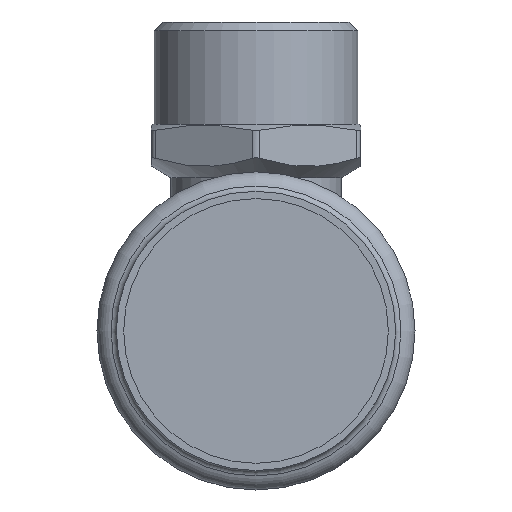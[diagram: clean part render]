
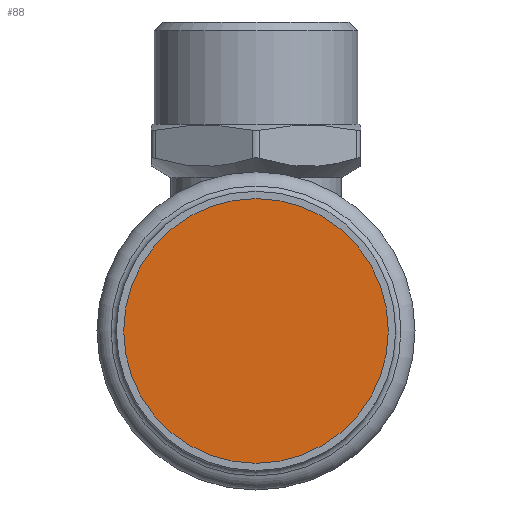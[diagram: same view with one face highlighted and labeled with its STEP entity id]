
A CAD part, front view. The second image highlights one B-rep face of the part: STEP entity #88.
In plain terms, the highlighted planar face has unit normal (0, -1, 0).
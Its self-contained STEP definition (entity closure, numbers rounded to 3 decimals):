
#88=ADVANCED_FACE('',(#381),#383,.T.);
#381=FACE_BOUND('',#382,.T.);
#382=EDGE_LOOP('',(#519));
#383=PLANE('',#384);
#384=AXIS2_PLACEMENT_3D('',#385,#386,#387);
#385=CARTESIAN_POINT('',(0.,-67.792,0.));
#386=DIRECTION('',(0.,-1.,0.));
#387=DIRECTION('',(0.,0.,-1.));
#519=ORIENTED_EDGE('',*,*,#582,.T.);
#582=EDGE_CURVE('',#694,#694,#695,.F.);
#694=VERTEX_POINT('',#2055);
#695=CIRCLE('',#2056,27.2);
#2055=CARTESIAN_POINT('',(0.,-67.792,27.2));
#2056=AXIS2_PLACEMENT_3D('',#2057,#2058,#2059);
#2057=CARTESIAN_POINT('',(0.,-67.792,0.));
#2058=DIRECTION('',(0.,1.,0.));
#2059=DIRECTION('',(0.,0.,1.));
